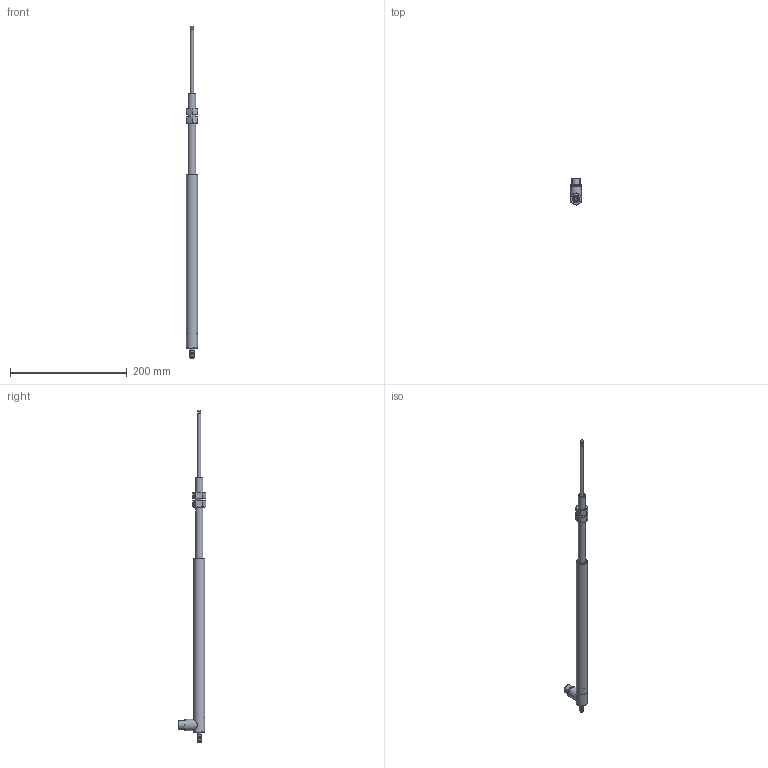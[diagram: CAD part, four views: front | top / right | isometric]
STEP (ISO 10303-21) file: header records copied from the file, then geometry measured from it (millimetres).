
FILE_DESCRIPTION(/* description */ (''),/* implementation_level */ '2;1');
FILE_NAME(/* name */ 'F:\GHRA SERIES\GHRA-750-D-XXXX\GHRA-750-D-2000\GHRA-750-A-2000 ASSEMBLY.iam.stp',/* time_stamp */ '2021-11-17T12:46:38-05:00',/* author */ ('J. Nielson'),/* organization */ (''),/* preprocessor_version */ 'ST-DEVELOPER v18.1',/* originating_system */ 'Autodesk Inventor 2022',/* authorisation */ '');
FILE_SCHEMA (('AUTOMOTIVE_DESIGN { 1 0 10303 214 3 1 1 }'));
Length unit declared in the file: inch
Products named in the file (4): GHRA-750-A-2000 ASSEMBLY; GHRA-750-A-2000 HOUSING_Substitute_1; GHRA-750-A-2000 SHAFT_Substitute_1; AS 2465 - 1/2  UNF
Assembly tree (4 placements, depth 2):
  GHRA-750-A-2000 ASSEMBLY
    GHRA-750-A-2000 HOUSING_Substitute_1
    GHRA-750-A-2000 SHAFT_Substitute_1
    AS 2465 - 1/2  UNF  x2
Bounding box: 19.05 x 46.71 x 569.6 mm (x, y, z)
Volume: 52001.4 mm3; surface area: 56398.7 mm2
Topology: 17 solids, 17 shells, 210 faces, 417 edges, 265 vertices
Faces by surface type: plane 82, cylinder 68, cone 47, bspline 7, torus 5, sphere 1
Full cylindrical faces by diameter (mm): 0.762 x12, 2.845 x3, 4.762 x1, 4.826 x2, 5.334 x4, 5.397 x1, 6 x1, 6.731 x1, 7.493 x4, 7.671 x2, 7.874 x1, 11.328 x2, 12.7 x1, 13.208 x1, 14.986 x1, 15.748 x2, 16.51 x1, 17.018 x1, 17.069 x1, 17.78 x1, 18.034 x1, 18.415 x6, 19.05 x2
Entity records: 7087 total; most frequent: CARTESIAN_POINT 2746, DIRECTION 898, ORIENTED_EDGE 730, AXIS2_PLACEMENT_3D 384, EDGE_CURVE 365, EDGE_LOOP 239, VERTEX_POINT 236, CIRCLE 196
